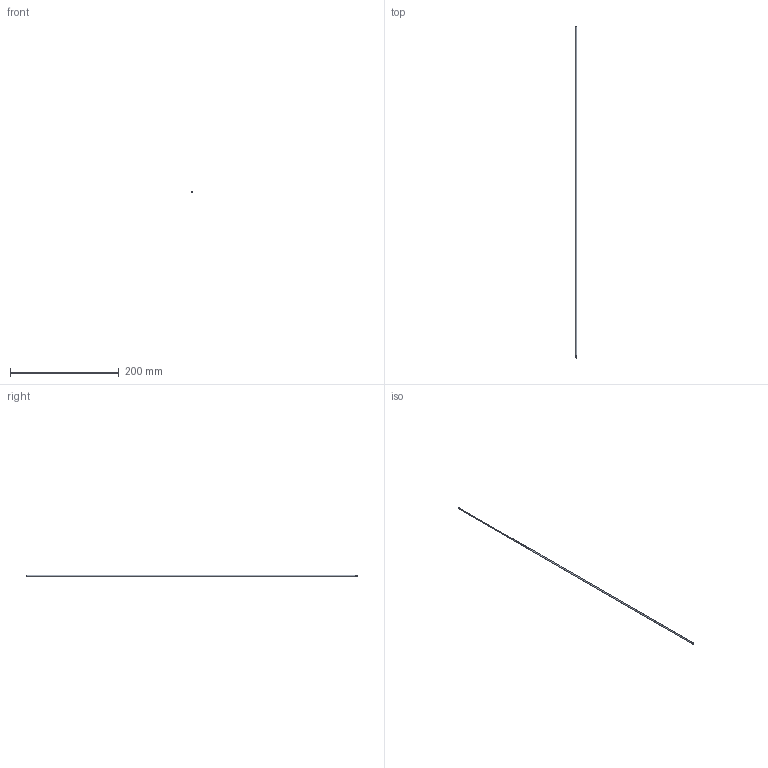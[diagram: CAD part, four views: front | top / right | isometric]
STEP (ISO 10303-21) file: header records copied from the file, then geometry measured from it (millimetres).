
FILE_DESCRIPTION(/* description */ (''),/* implementation_level */ '2;1');
FILE_NAME(/* name */ 'C:/Users/drich/Desktop/HF093T-24 v1.step',/* time_stamp */ '2019-12-30T13:31:49-06:00',/* author */ (''),/* organization */ (''),/* preprocessor_version */ 'ST-DEVELOPER v18',/* originating_system */ 'Autodesk Translation Framework v8.12.0.6',/* authorisation */ '');
FILE_SCHEMA (('AUTOMOTIVE_DESIGN { 1 0 10303 214 3 1 1 }'));
Length unit declared in the file: inch
Products named in the file (1): HF093T-24
Bounding box: 3.23 x 609.6 x 3.23 mm (x, y, z)
Volume: 730.2 mm3; surface area: 8092.2 mm2
Topology: 1 solids, 1 shells, 11 faces, 27 edges, 20 vertices
Faces by surface type: cylinder 4, plane 4, torus 2, cone 1
Full cylindrical faces by diameter (mm): 1.93 x1, 2.286 x1, 3.096 x1, 3.226 x1
Entity records: 390 total; most frequent: DIRECTION 73, CARTESIAN_POINT 59, ORIENTED_EDGE 54, AXIS2_PLACEMENT_3D 34, EDGE_CURVE 27, CIRCLE 22, VERTEX_POINT 20, EDGE_LOOP 15
